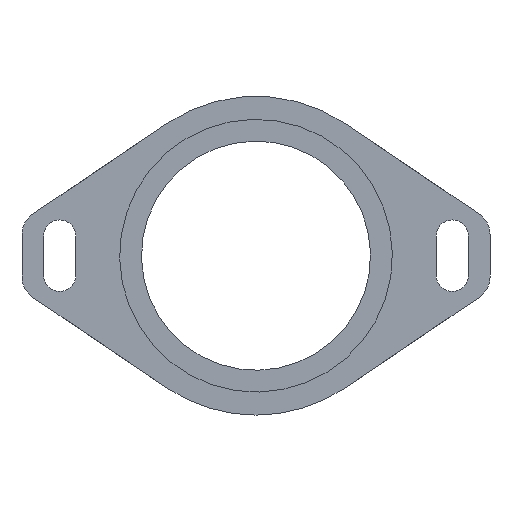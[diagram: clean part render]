
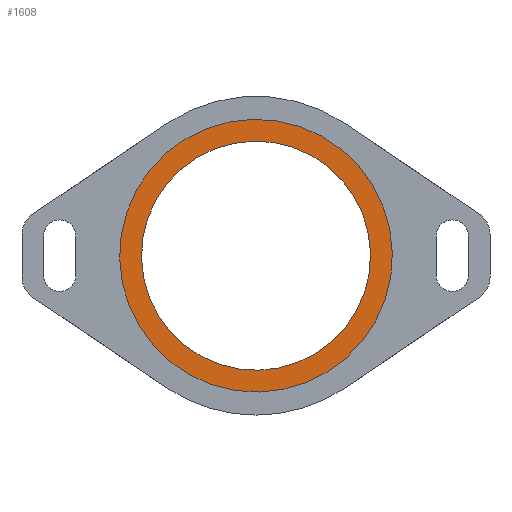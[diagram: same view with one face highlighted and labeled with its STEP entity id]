
A CAD part, front view. The second image highlights one B-rep face of the part: STEP entity #1608.
In plain terms, the highlighted planar face has unit normal (0, -1, 0).
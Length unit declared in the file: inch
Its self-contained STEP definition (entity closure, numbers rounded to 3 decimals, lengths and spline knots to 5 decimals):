
#135 = PLANE ( 'NONE',  #2471 ) ;
#138 = VERTEX_POINT ( 'NONE', #2480 ) ;
#370 = VERTEX_POINT ( 'NONE', #2226 ) ;
#387 = DIRECTION ( 'NONE',  ( 0., 1., 0. ) ) ;
#538 = VERTEX_POINT ( 'NONE', #1310 ) ;
#637 = EDGE_CURVE ( 'NONE', #2344, #370, #1783, .T. ) ;
#734 = CARTESIAN_POINT ( 'NONE',  ( -1.9538, 0.96375, 0.1441 ) ) ;
#956 = AXIS2_PLACEMENT_3D ( 'NONE', #1793, #1117, #1590 ) ;
#982 = DIRECTION ( 'NONE',  ( 0.15, 0., 0.989 ) ) ;
#990 = AXIS2_PLACEMENT_3D ( 'NONE', #734, #2303, #982 ) ;
#994 = CARTESIAN_POINT ( 'NONE',  ( -2.16209, 0.96375, -1.2302 ) ) ;
#1051 = EDGE_CURVE ( 'NONE', #138, #538, #2725, .T. ) ;
#1078 = EDGE_LOOP ( 'NONE', ( #2298, #1221 ) ) ;
#1087 = CARTESIAN_POINT ( 'NONE',  ( -1.9538, 0.96375, 0.1441 ) ) ;
#1117 = DIRECTION ( 'NONE',  ( 0., -1., 0. ) ) ;
#1221 = ORIENTED_EDGE ( 'NONE', *, *, #1051, .F. ) ;
#1310 = CARTESIAN_POINT ( 'NONE',  ( -2.12875, 0.96375, -1.01022 ) ) ;
#1324 = DIRECTION ( 'NONE',  ( -0.15, 0., -0.989 ) ) ;
#1475 = AXIS2_PLACEMENT_3D ( 'NONE', #1087, #2654, #1324 ) ;
#1552 = CIRCLE ( 'NONE', #1475, 1.1675 ) ;
#1565 = CARTESIAN_POINT ( 'NONE',  ( -1.9538, 0.96375, 0.1441 ) ) ;
#1572 = EDGE_CURVE ( 'NONE', #538, #138, #1552, .T. ) ;
#1590 = DIRECTION ( 'NONE',  ( -0.15, 0., -0.989 ) ) ;
#1608 = ADVANCED_FACE ( 'NONE', ( #2636, #1617 ), #135, .F. ) ;
#1617 = FACE_OUTER_BOUND ( 'NONE', #2899, .T. ) ;
#1736 = AXIS2_PLACEMENT_3D ( 'NONE', #2870, #2852, #2835 ) ;
#1783 = CIRCLE ( 'NONE', #1736, 1.39 ) ;
#1793 = CARTESIAN_POINT ( 'NONE',  ( -1.9538, 0.96375, 0.1441 ) ) ;
#1991 = DIRECTION ( 'NONE',  ( 0.15, 0., 0.989 ) ) ;
#2102 = ORIENTED_EDGE ( 'NONE', *, *, #637, .F. ) ;
#2148 = ORIENTED_EDGE ( 'NONE', *, *, #2772, .F. ) ;
#2207 = CIRCLE ( 'NONE', #990, 1.39 ) ;
#2226 = CARTESIAN_POINT ( 'NONE',  ( -1.74551, 0.96375, 1.51841 ) ) ;
#2298 = ORIENTED_EDGE ( 'NONE', *, *, #1572, .F. ) ;
#2303 = DIRECTION ( 'NONE',  ( 0., 1., 0. ) ) ;
#2344 = VERTEX_POINT ( 'NONE', #994 ) ;
#2471 = AXIS2_PLACEMENT_3D ( 'NONE', #1565, #387, #1991 ) ;
#2480 = CARTESIAN_POINT ( 'NONE',  ( -1.77885, 0.96375, 1.29842 ) ) ;
#2636 = FACE_BOUND ( 'NONE', #1078, .T. ) ;
#2654 = DIRECTION ( 'NONE',  ( 0., -1., 0. ) ) ;
#2725 = CIRCLE ( 'NONE', #956, 1.1675 ) ;
#2772 = EDGE_CURVE ( 'NONE', #370, #2344, #2207, .T. ) ;
#2835 = DIRECTION ( 'NONE',  ( 0.15, 0., 0.989 ) ) ;
#2852 = DIRECTION ( 'NONE',  ( 0., 1., 0. ) ) ;
#2870 = CARTESIAN_POINT ( 'NONE',  ( -1.9538, 0.96375, 0.1441 ) ) ;
#2899 = EDGE_LOOP ( 'NONE', ( #2148, #2102 ) ) ;
